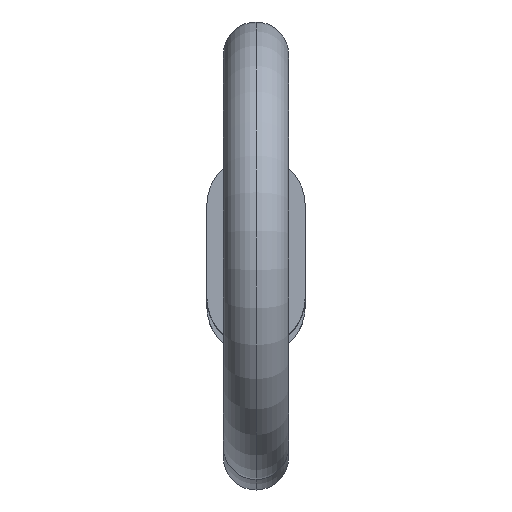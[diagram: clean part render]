
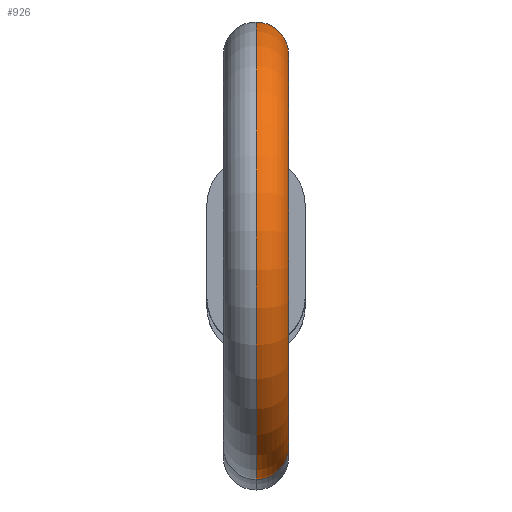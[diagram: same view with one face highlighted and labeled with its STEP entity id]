
A CAD part, top view. The second image highlights one B-rep face of the part: STEP entity #926.
In plain terms, the highlighted toroidal (fillet/blend) face has major radius 4.8 mm and minor radius 0.795 mm.
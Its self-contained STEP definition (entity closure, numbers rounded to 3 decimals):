
#37 = EDGE_CURVE ( 'NONE', #733, #243, #757, .T. ) ;
#72 = DIRECTION ( 'NONE',  ( 0., 0., -1. ) ) ;
#83 = VERTEX_POINT ( 'NONE', #634 ) ;
#86 = DIRECTION ( 'NONE',  ( 1., 0., 0. ) ) ;
#99 = DIRECTION ( 'NONE',  ( 1., 0., 0. ) ) ;
#128 = CARTESIAN_POINT ( 'NONE',  ( 0., 1.852, 73.53 ) ) ;
#135 = CIRCLE ( 'NONE', #942, 5.595 ) ;
#147 = DIRECTION ( 'NONE',  ( 0., 0.667, -0.745 ) ) ;
#186 = CIRCLE ( 'NONE', #707, 0.795 ) ;
#230 = CIRCLE ( 'NONE', #852, 4.005 ) ;
#238 = DIRECTION ( 'NONE',  ( 0., 0.667, 0.745 ) ) ;
#243 = VERTEX_POINT ( 'NONE', #582 ) ;
#252 = DIRECTION ( 'NONE',  ( 1., 0., 0. ) ) ;
#268 = FACE_OUTER_BOUND ( 'NONE', #527, .T. ) ;
#276 = EDGE_CURVE ( 'NONE', #665, #83, #186, .T. ) ;
#288 = AXIS2_PLACEMENT_3D ( 'NONE', #341, #252, #554 ) ;
#317 = CARTESIAN_POINT ( 'NONE',  ( 0., -1.133, 76.2 ) ) ;
#341 = CARTESIAN_POINT ( 'NONE',  ( 0., -1.133, 76.2 ) ) ;
#401 = TOROIDAL_SURFACE ( 'NONE', #288, 4.8, 0.795 ) ;
#456 = CARTESIAN_POINT ( 'NONE',  ( 0., -1.133, 76.2 ) ) ;
#478 = EDGE_CURVE ( 'NONE', #83, #243, #135, .T. ) ;
#501 = EDGE_CURVE ( 'NONE', #665, #733, #230, .T. ) ;
#509 = CARTESIAN_POINT ( 'NONE',  ( 0., -4.711, 73. ) ) ;
#527 = EDGE_LOOP ( 'NONE', ( #879, #801, #789, #749 ) ) ;
#554 = DIRECTION ( 'NONE',  ( 0., 0., -1. ) ) ;
#582 = CARTESIAN_POINT ( 'NONE',  ( 0., -5.303, 72.47 ) ) ;
#589 = CARTESIAN_POINT ( 'NONE',  ( 0., 2.445, 73. ) ) ;
#600 = DIRECTION ( 'NONE',  ( 1., 0., 0. ) ) ;
#604 = DIRECTION ( 'NONE',  ( 0., 0., -1. ) ) ;
#633 = AXIS2_PLACEMENT_3D ( 'NONE', #509, #147, #722 ) ;
#634 = CARTESIAN_POINT ( 'NONE',  ( 0., 3.037, 72.47 ) ) ;
#665 = VERTEX_POINT ( 'NONE', #128 ) ;
#678 = CARTESIAN_POINT ( 'NONE',  ( 0., -4.118, 73.53 ) ) ;
#707 = AXIS2_PLACEMENT_3D ( 'NONE', #589, #238, #86 ) ;
#722 = DIRECTION ( 'NONE',  ( 1., 0., 0. ) ) ;
#733 = VERTEX_POINT ( 'NONE', #678 ) ;
#749 = ORIENTED_EDGE ( 'NONE', *, *, #501, .F. ) ;
#757 = CIRCLE ( 'NONE', #633, 0.795 ) ;
#789 = ORIENTED_EDGE ( 'NONE', *, *, #37, .F. ) ;
#801 = ORIENTED_EDGE ( 'NONE', *, *, #478, .T. ) ;
#852 = AXIS2_PLACEMENT_3D ( 'NONE', #317, #600, #604 ) ;
#879 = ORIENTED_EDGE ( 'NONE', *, *, #276, .T. ) ;
#926 = ADVANCED_FACE ( 'NONE', ( #268 ), #401, .T. ) ;
#942 = AXIS2_PLACEMENT_3D ( 'NONE', #456, #99, #72 ) ;
